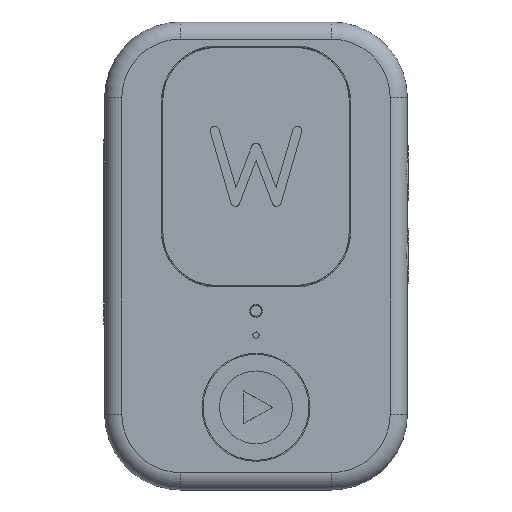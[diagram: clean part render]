
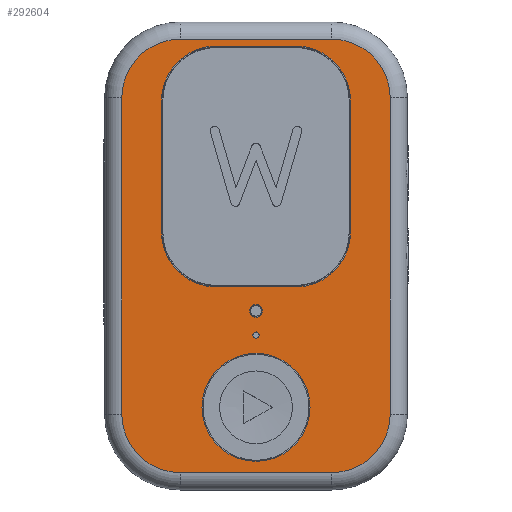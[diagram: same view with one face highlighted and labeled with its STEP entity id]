
A CAD part, top view. The second image highlights one B-rep face of the part: STEP entity #292604.
In plain terms, the highlighted planar face has unit normal (0, 0, 1).
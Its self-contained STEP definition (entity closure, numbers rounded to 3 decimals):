
#666=FACE_BOUND('',#16404,.T.);
#667=FACE_BOUND('',#16405,.T.);
#668=FACE_BOUND('',#16406,.T.);
#669=FACE_BOUND('',#16407,.T.);
#1640=FACE_OUTER_BOUND('',#16403,.T.);
#16403=EDGE_LOOP('',(#192510,#192511,#192512,#192513,#192514,#192515,#192516,
#192517));
#16404=EDGE_LOOP('',(#192518));
#16405=EDGE_LOOP('',(#192519));
#16406=EDGE_LOOP('',(#192520));
#16407=EDGE_LOOP('',(#192521,#192522,#192523,#192524,#192525,#192526,#192527,
#192528));
#31235=CIRCLE('',#308345,1.7);
#31236=CIRCLE('',#308349,1.7);
#31238=CIRCLE('',#308352,1.7);
#31239=CIRCLE('',#308353,1.7);
#31240=CIRCLE('',#308354,1.57);
#31241=CIRCLE('',#308355,0.09);
#31242=CIRCLE('',#308356,0.185);
#31243=CIRCLE('',#308357,1.6);
#31244=CIRCLE('',#308358,1.6);
#31245=CIRCLE('',#308359,1.6);
#31246=CIRCLE('',#308360,1.6);
#32510=LINE('',#400434,#75340);
#32538=LINE('',#400547,#75368);
#32539=LINE('',#400551,#75369);
#32540=LINE('',#400554,#75370);
#32541=LINE('',#400565,#75371);
#32542=LINE('',#400569,#75372);
#32543=LINE('',#400573,#75373);
#32544=LINE('',#400576,#75374);
#75340=VECTOR('',#325449,0.1);
#75368=VECTOR('',#325539,0.1);
#75369=VECTOR('',#325542,0.1);
#75370=VECTOR('',#325545,0.1);
#75371=VECTOR('',#325554,0.1);
#75372=VECTOR('',#325557,0.1);
#75373=VECTOR('',#325560,0.1);
#75374=VECTOR('',#325563,0.1);
#118149=VERTEX_POINT('',#400431);
#118150=VERTEX_POINT('',#400433);
#118181=VERTEX_POINT('',#400532);
#118183=VERTEX_POINT('',#400542);
#118184=VERTEX_POINT('',#400546);
#118185=VERTEX_POINT('',#400548);
#118186=VERTEX_POINT('',#400550);
#118187=VERTEX_POINT('',#400552);
#118188=VERTEX_POINT('',#400555);
#118189=VERTEX_POINT('',#400557);
#118190=VERTEX_POINT('',#400559);
#118191=VERTEX_POINT('',#400561);
#118192=VERTEX_POINT('',#400562);
#118193=VERTEX_POINT('',#400564);
#118194=VERTEX_POINT('',#400566);
#118195=VERTEX_POINT('',#400568);
#118196=VERTEX_POINT('',#400570);
#118197=VERTEX_POINT('',#400572);
#118198=VERTEX_POINT('',#400574);
#147659=EDGE_CURVE('',#118149,#118150,#32510,.T.);
#147702=EDGE_CURVE('',#118181,#118149,#31235,.T.);
#147706=EDGE_CURVE('',#118150,#118183,#31236,.T.);
#147708=EDGE_CURVE('',#118184,#118181,#32538,.T.);
#147709=EDGE_CURVE('',#118185,#118184,#31238,.T.);
#147710=EDGE_CURVE('',#118186,#118185,#32539,.T.);
#147711=EDGE_CURVE('',#118187,#118186,#31239,.T.);
#147712=EDGE_CURVE('',#118183,#118187,#32540,.T.);
#147713=EDGE_CURVE('',#118188,#118188,#31240,.T.);
#147714=EDGE_CURVE('',#118189,#118189,#31241,.T.);
#147715=EDGE_CURVE('',#118190,#118190,#31242,.T.);
#147716=EDGE_CURVE('',#118191,#118192,#31243,.T.);
#147717=EDGE_CURVE('',#118191,#118193,#32541,.T.);
#147718=EDGE_CURVE('',#118194,#118193,#31244,.T.);
#147719=EDGE_CURVE('',#118195,#118194,#32542,.T.);
#147720=EDGE_CURVE('',#118196,#118195,#31245,.T.);
#147721=EDGE_CURVE('',#118197,#118196,#32543,.T.);
#147722=EDGE_CURVE('',#118198,#118197,#31246,.T.);
#147723=EDGE_CURVE('',#118198,#118192,#32544,.T.);
#192510=ORIENTED_EDGE('',*,*,#147659,.F.);
#192511=ORIENTED_EDGE('',*,*,#147702,.F.);
#192512=ORIENTED_EDGE('',*,*,#147708,.F.);
#192513=ORIENTED_EDGE('',*,*,#147709,.F.);
#192514=ORIENTED_EDGE('',*,*,#147710,.F.);
#192515=ORIENTED_EDGE('',*,*,#147711,.F.);
#192516=ORIENTED_EDGE('',*,*,#147712,.F.);
#192517=ORIENTED_EDGE('',*,*,#147706,.F.);
#192518=ORIENTED_EDGE('',*,*,#147713,.T.);
#192519=ORIENTED_EDGE('',*,*,#147714,.T.);
#192520=ORIENTED_EDGE('',*,*,#147715,.T.);
#192521=ORIENTED_EDGE('',*,*,#147716,.F.);
#192522=ORIENTED_EDGE('',*,*,#147717,.T.);
#192523=ORIENTED_EDGE('',*,*,#147718,.F.);
#192524=ORIENTED_EDGE('',*,*,#147719,.F.);
#192525=ORIENTED_EDGE('',*,*,#147720,.F.);
#192526=ORIENTED_EDGE('',*,*,#147721,.F.);
#192527=ORIENTED_EDGE('',*,*,#147722,.F.);
#192528=ORIENTED_EDGE('',*,*,#147723,.T.);
#278157=PLANE('',#308351);
#292604=ADVANCED_FACE('',(#1640,#666,#667,#668,#669),#278157,.T.);
#308345=AXIS2_PLACEMENT_3D('',#400534,#325522,#325523);
#308349=AXIS2_PLACEMENT_3D('',#400543,#325533,#325534);
#308351=AXIS2_PLACEMENT_3D('',#400545,#325537,#325538);
#308352=AXIS2_PLACEMENT_3D('',#400549,#325540,#325541);
#308353=AXIS2_PLACEMENT_3D('',#400553,#325543,#325544);
#308354=AXIS2_PLACEMENT_3D('',#400556,#325546,#325547);
#308355=AXIS2_PLACEMENT_3D('',#400558,#325548,#325549);
#308356=AXIS2_PLACEMENT_3D('',#400560,#325550,#325551);
#308357=AXIS2_PLACEMENT_3D('',#400563,#325552,#325553);
#308358=AXIS2_PLACEMENT_3D('',#400567,#325555,#325556);
#308359=AXIS2_PLACEMENT_3D('',#400571,#325558,#325559);
#308360=AXIS2_PLACEMENT_3D('',#400575,#325561,#325562);
#325449=DIRECTION('',(0.,1.,0.));
#325522=DIRECTION('center_axis',(0.,0.,-1.));
#325523=DIRECTION('ref_axis',(0.,-1.,0.));
#325533=DIRECTION('center_axis',(0.,0.,-1.));
#325534=DIRECTION('ref_axis',(-1.,0.,0.));
#325537=DIRECTION('center_axis',(0.,0.,1.));
#325538=DIRECTION('ref_axis',(1.,0.,0.));
#325539=DIRECTION('',(-1.,0.,0.));
#325540=DIRECTION('center_axis',(0.,0.,-1.));
#325541=DIRECTION('ref_axis',(1.,0.,0.));
#325542=DIRECTION('',(0.,-1.,0.));
#325543=DIRECTION('center_axis',(0.,0.,-1.));
#325544=DIRECTION('ref_axis',(0.,1.,0.));
#325545=DIRECTION('',(1.,0.,0.));
#325546=DIRECTION('center_axis',(0.,0.,-1.));
#325547=DIRECTION('ref_axis',(1.,0.,0.));
#325548=DIRECTION('center_axis',(0.,0.,-1.));
#325549=DIRECTION('ref_axis',(1.,0.,0.));
#325550=DIRECTION('center_axis',(0.,0.,-1.));
#325551=DIRECTION('ref_axis',(1.,0.,0.));
#325552=DIRECTION('center_axis',(0.,0.,1.));
#325553=DIRECTION('ref_axis',(-1.,0.,0.));
#325554=DIRECTION('',(0.,1.,0.));
#325555=DIRECTION('center_axis',(0.,0.,1.));
#325556=DIRECTION('ref_axis',(-1.,0.,0.));
#325557=DIRECTION('',(-1.,0.,0.));
#325558=DIRECTION('center_axis',(0.,0.,1.));
#325559=DIRECTION('ref_axis',(1.,0.,0.));
#325560=DIRECTION('',(0.,1.,0.));
#325561=DIRECTION('center_axis',(0.,0.,1.));
#325562=DIRECTION('ref_axis',(1.,0.,0.));
#325563=DIRECTION('',(-1.,0.,0.));
#400431=CARTESIAN_POINT('',(-3.9,-4.6,1.175));
#400433=CARTESIAN_POINT('',(-3.9,4.6,1.175));
#400434=CARTESIAN_POINT('',(-3.9,-4.6,1.175));
#400532=CARTESIAN_POINT('',(-2.2,-6.3,1.175));
#400534=CARTESIAN_POINT('Origin',(-2.2,-4.6,1.175));
#400542=CARTESIAN_POINT('',(-2.2,6.3,1.175));
#400543=CARTESIAN_POINT('Origin',(-2.2,4.6,1.175));
#400545=CARTESIAN_POINT('Origin',(-4.4,-6.8,1.175));
#400546=CARTESIAN_POINT('',(2.2,-6.3,1.175));
#400547=CARTESIAN_POINT('',(2.2,-6.3,1.175));
#400548=CARTESIAN_POINT('',(3.9,-4.6,1.175));
#400549=CARTESIAN_POINT('Origin',(2.2,-4.6,1.175));
#400550=CARTESIAN_POINT('',(3.9,4.6,1.175));
#400551=CARTESIAN_POINT('',(3.9,4.6,1.175));
#400552=CARTESIAN_POINT('',(2.2,6.3,1.175));
#400553=CARTESIAN_POINT('Origin',(2.2,4.6,1.175));
#400554=CARTESIAN_POINT('',(-2.2,6.3,1.175));
#400555=CARTESIAN_POINT('',(-1.57,-4.4,1.175));
#400556=CARTESIAN_POINT('Origin',(0.,-4.4,1.175));
#400557=CARTESIAN_POINT('',(-0.09,-2.3,1.175));
#400558=CARTESIAN_POINT('Origin',(0.,-2.3,1.175));
#400559=CARTESIAN_POINT('',(-0.185,-1.6,1.175));
#400560=CARTESIAN_POINT('Origin',(0.,-1.6,1.175));
#400561=CARTESIAN_POINT('',(-2.75,0.7,1.175));
#400562=CARTESIAN_POINT('',(-1.15,-0.9,1.175));
#400563=CARTESIAN_POINT('Origin',(-1.15,0.7,1.175));
#400564=CARTESIAN_POINT('',(-2.75,4.5,1.175));
#400565=CARTESIAN_POINT('',(-2.75,-3.85,1.175));
#400566=CARTESIAN_POINT('',(-1.15,6.1,1.175));
#400567=CARTESIAN_POINT('Origin',(-1.15,4.5,1.175));
#400568=CARTESIAN_POINT('',(1.15,6.1,1.175));
#400569=CARTESIAN_POINT('',(-3.575,6.1,1.175));
#400570=CARTESIAN_POINT('',(2.75,4.5,1.175));
#400571=CARTESIAN_POINT('Origin',(1.15,4.5,1.175));
#400572=CARTESIAN_POINT('',(2.75,0.7,1.175));
#400573=CARTESIAN_POINT('',(2.75,-3.85,1.175));
#400574=CARTESIAN_POINT('',(1.15,-0.9,1.175));
#400575=CARTESIAN_POINT('Origin',(1.15,0.7,1.175));
#400576=CARTESIAN_POINT('',(-3.575,-0.9,1.175));
